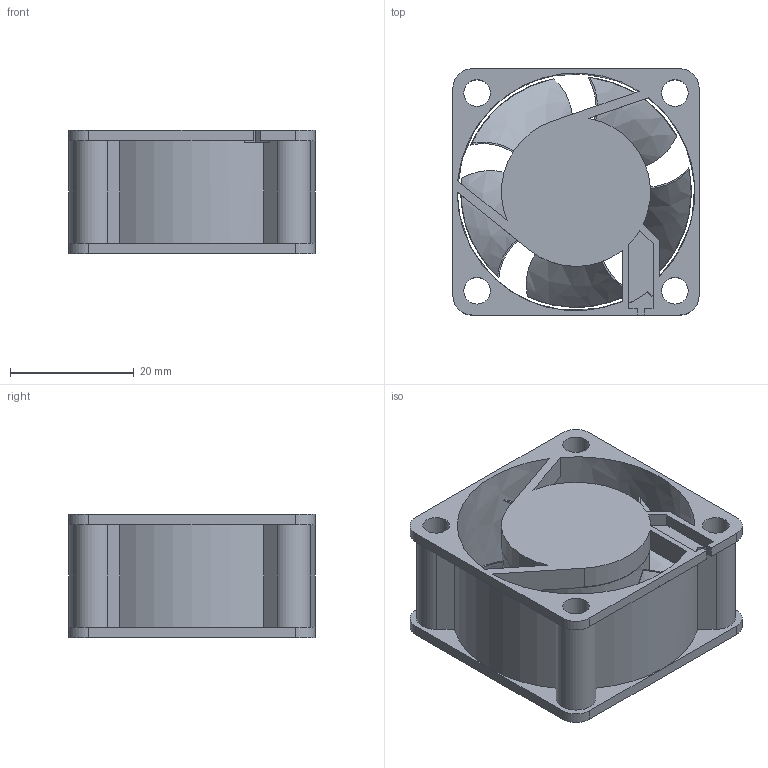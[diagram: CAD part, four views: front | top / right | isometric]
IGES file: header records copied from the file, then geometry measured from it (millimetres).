
Global section: file name: No Iges File Name specified; native system: AutoDesk Inventor R6.1; preprocessor: AutoDesk Inventor Iges Exporter R6.1; author: No Author specified; organization: No Organization specified; date: 20051225.163911; units: inch
Bounding box: 39.88 x 39.88 x 20.07 mm (x, y, z)
Surface area: 12067.9 mm2 (no closed solid volume)
Topology: 0 solids, 2 shells, 99 faces, 559 edges, 550 vertices
Faces by surface type: plane 55, revolution 25, bspline 19
